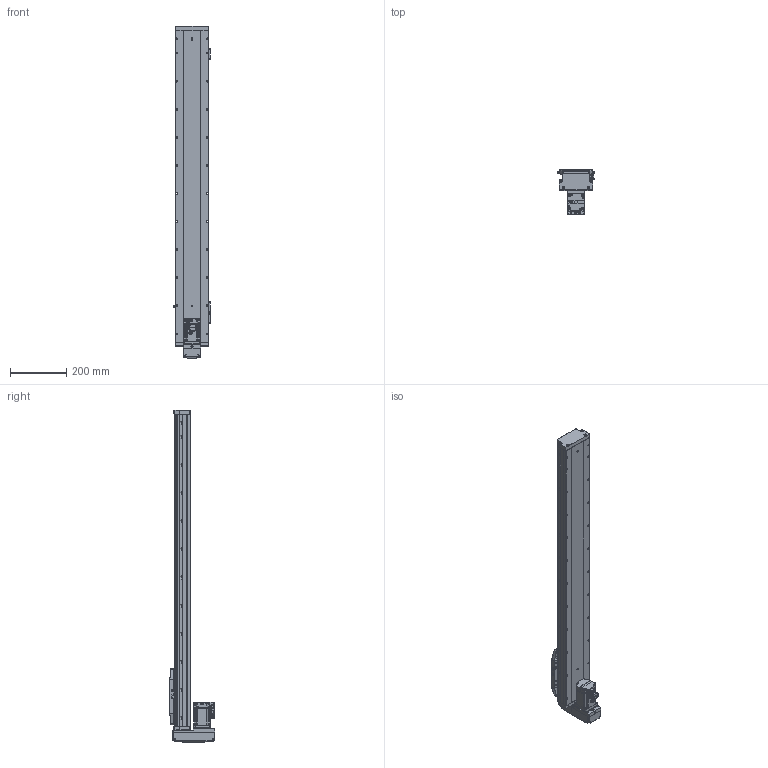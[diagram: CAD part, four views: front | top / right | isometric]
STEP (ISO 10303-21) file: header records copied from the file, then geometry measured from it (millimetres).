
FILE_DESCRIPTION (( 'STEP AP203' ), '1' );
FILE_NAME ('18.STEP', '2021-03-04T00:48:11', ( '' ), ( '' ), 'SwSTEP 2.0', 'SolidWorks 2016', '' );
FILE_SCHEMA (( 'CONFIG_CONTROL_DESIGN' ));
Length unit declared in the file: millimetre
Products named in the file (10): CTH12-BM-菁釱; CTH12-BM-HZ; 18; PM-Y45; MS1H1-40B30CB-A331Z-S_ASM_1; CTH12-BM-02; CTH12-BM -04; CTH12-BM-01; CTH12-BM-07; CTH12-BM-05
Assembly tree (14 placements, depth 2):
  18
    CTH12-BM-菁釱
    CTH12-BM-01
    CTH12-BM -04
    CTH12-BM-05  x2
    CTH12-BM-07  x3
    CTH12-BM-HZ
    PM-Y45  x3
    MS1H1-40B30CB-A331Z-S_ASM_1
    CTH12-BM-02
Bounding box: 129 x 162.5 x 1181.5 mm (x, y, z)
Volume: 7381535.7 mm3; surface area: 747562.9 mm2
Topology: 25 solids, 51 shells, 3497 faces, 9413 edges, 6078 vertices
Faces by surface type: plane 1941, cylinder 1029, bspline 323, cone 204
Entity records: 115004 total; most frequent: CARTESIAN_POINT 32925, ORIENTED_EDGE 17412, DIRECTION 15990, EDGE_CURVE 8722, VERTEX_POINT 5678, LINE 5658, VECTOR 5658, AXIS2_PLACEMENT_3D 5166
